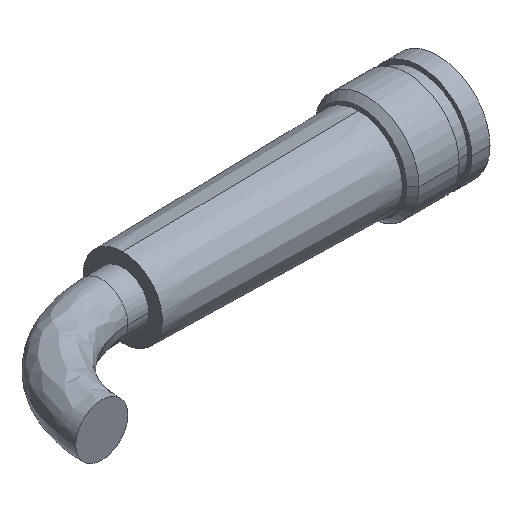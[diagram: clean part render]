
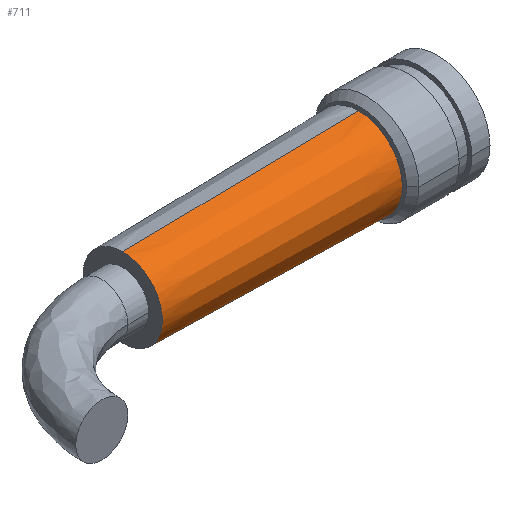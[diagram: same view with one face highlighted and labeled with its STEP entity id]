
A CAD part, isometric view. The second image highlights one B-rep face of the part: STEP entity #711.
In plain terms, the highlighted conical face has half-angle 1.014 degrees and reference radius 4.2 mm.
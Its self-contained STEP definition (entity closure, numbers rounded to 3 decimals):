
#4 = CARTESIAN_POINT ( 'NONE',  ( -3.2, 0., 4.2 ) ) ;
#21 = EDGE_LOOP ( 'NONE', ( #881, #73, #394, #192 ) ) ;
#73 = ORIENTED_EDGE ( 'NONE', *, *, #931, .T. ) ;
#106 = DIRECTION ( 'NONE',  ( 1., 0., -0.018 ) ) ;
#135 = DIRECTION ( 'NONE',  ( 1., 0., 0. ) ) ;
#143 = VERTEX_POINT ( 'NONE', #199 ) ;
#192 = ORIENTED_EDGE ( 'NONE', *, *, #206, .T. ) ;
#199 = CARTESIAN_POINT ( 'NONE',  ( -3.2, 0., 4.2 ) ) ;
#206 = EDGE_CURVE ( 'NONE', #855, #143, #376, .T. ) ;
#216 = VECTOR ( 'NONE', #1016, 1000. ) ;
#218 = LINE ( 'NONE', #4, #216 ) ;
#253 = DIRECTION ( 'NONE',  ( 0., 0., -1. ) ) ;
#268 = VECTOR ( 'NONE', #106, 1000. ) ;
#274 = AXIS2_PLACEMENT_3D ( 'NONE', #318, #974, #718 ) ;
#286 = CONICAL_SURFACE ( 'NONE', #274, 4.2, 0.018 ) ;
#310 = LINE ( 'NONE', #915, #268 ) ;
#318 = CARTESIAN_POINT ( 'NONE',  ( -3.2, 0., 0. ) ) ;
#372 = CARTESIAN_POINT ( 'NONE',  ( -25.8, 0., 0. ) ) ;
#376 = CIRCLE ( 'NONE', #728, 4.2 ) ;
#387 = EDGE_CURVE ( 'NONE', #596, #855, #310, .T. ) ;
#394 = ORIENTED_EDGE ( 'NONE', *, *, #387, .T. ) ;
#421 = CIRCLE ( 'NONE', #467, 3.8 ) ;
#430 = EDGE_CURVE ( 'NONE', #777, #143, #218, .T. ) ;
#467 = AXIS2_PLACEMENT_3D ( 'NONE', #372, #135, #253 ) ;
#590 = CARTESIAN_POINT ( 'NONE',  ( -25.8, 0., -3.8 ) ) ;
#596 = VERTEX_POINT ( 'NONE', #590 ) ;
#705 = CARTESIAN_POINT ( 'NONE',  ( -25.8, 0., 3.8 ) ) ;
#711 = ADVANCED_FACE ( 'NONE', ( #958 ), #286, .T. ) ;
#718 = DIRECTION ( 'NONE',  ( 0., 0., -1. ) ) ;
#728 = AXIS2_PLACEMENT_3D ( 'NONE', #950, #954, #960 ) ;
#777 = VERTEX_POINT ( 'NONE', #705 ) ;
#855 = VERTEX_POINT ( 'NONE', #868 ) ;
#868 = CARTESIAN_POINT ( 'NONE',  ( -3.2, 0., -4.2 ) ) ;
#881 = ORIENTED_EDGE ( 'NONE', *, *, #430, .F. ) ;
#915 = CARTESIAN_POINT ( 'NONE',  ( -3.2, 0., -4.2 ) ) ;
#931 = EDGE_CURVE ( 'NONE', #777, #596, #421, .T. ) ;
#950 = CARTESIAN_POINT ( 'NONE',  ( -3.2, 0., 0. ) ) ;
#954 = DIRECTION ( 'NONE',  ( -1., 0., 0. ) ) ;
#958 = FACE_OUTER_BOUND ( 'NONE', #21, .T. ) ;
#960 = DIRECTION ( 'NONE',  ( 0., 0., -1. ) ) ;
#974 = DIRECTION ( 'NONE',  ( 1., 0., 0. ) ) ;
#1016 = DIRECTION ( 'NONE',  ( 1., 0., 0.018 ) ) ;
